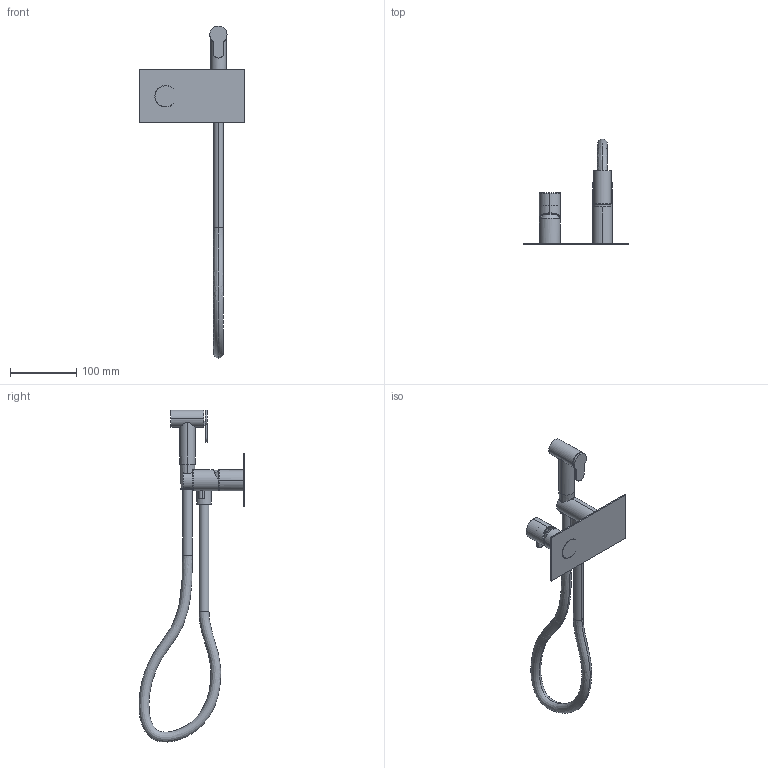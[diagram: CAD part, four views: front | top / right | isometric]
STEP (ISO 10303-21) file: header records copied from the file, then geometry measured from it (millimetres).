
FILE_DESCRIPTION((''),'2;1');
FILE_NAME('6950121_SW0001','2023-09-21T11:16:47',('carloff'),(''),'CREO PARAMETRIC BY PTC INC, 2022014','CREO PARAMETRIC BY PTC INC, 2022014','');
FILE_SCHEMA(('CONFIG_CONTROL_DESIGN'));
Length unit declared in the file: millimetre
Products named in the file (1): 6950121_SW0001
Bounding box: 160 x 160.29 x 502.58 mm (x, y, z)
Volume: 350645.5 mm3; surface area: 101940.6 mm2
Topology: 1 solids, 1 shells, 144 faces, 349 edges, 220 vertices
Faces by surface type: cylinder 62, plane 51, cone 21, torus 6, bspline 4
Entity records: 5901 total; most frequent: CARTESIAN_POINT 2423, DIRECTION 757, ORIENTED_EDGE 698, EDGE_CURVE 349, AXIS2_PLACEMENT_3D 304, VERTEX_POINT 220, CIRCLE 164, EDGE_LOOP 161
